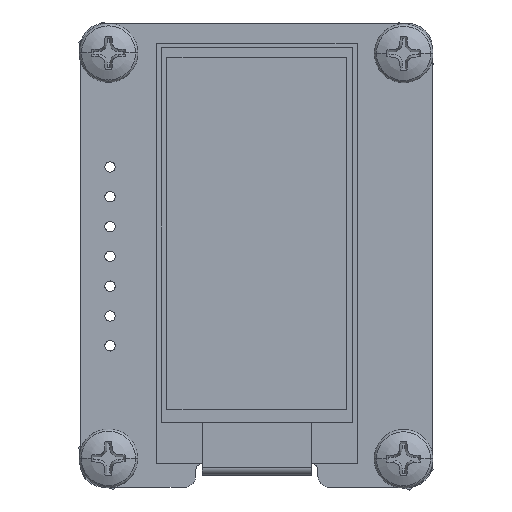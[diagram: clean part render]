
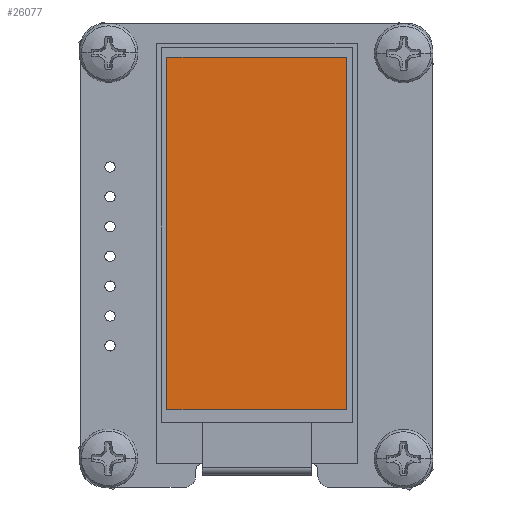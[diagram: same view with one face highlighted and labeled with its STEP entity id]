
A CAD part, top view. The second image highlights one B-rep face of the part: STEP entity #26077.
In plain terms, the highlighted planar face has unit normal (0, 0, 1).
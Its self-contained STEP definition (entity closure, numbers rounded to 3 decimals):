
#25042=DIRECTION('',(1.,0.,0.));
#25043=VECTOR('',#25042,30.02);
#25044=CARTESIAN_POINT('',(-15.01,7.65,1.4));
#25045=LINE('',#25044,#25043);
#25049=DIRECTION('',(0.,1.,0.));
#25050=VECTOR('',#25049,15.3);
#25051=CARTESIAN_POINT('',(15.01,-7.65,1.4));
#25052=LINE('',#25051,#25050);
#25056=DIRECTION('',(1.,0.,0.));
#25057=VECTOR('',#25056,30.02);
#25058=CARTESIAN_POINT('',(-15.01,-7.65,1.4));
#25059=LINE('',#25058,#25057);
#25063=DIRECTION('',(0.,1.,0.));
#25064=VECTOR('',#25063,15.3);
#25065=CARTESIAN_POINT('',(-15.01,-7.65,1.4));
#25066=LINE('',#25065,#25064);
#25137=CARTESIAN_POINT('',(-15.01,7.65,1.4));
#25138=CARTESIAN_POINT('',(15.01,7.65,1.4));
#25139=VERTEX_POINT('',#25137);
#25140=VERTEX_POINT('',#25138);
#25141=CARTESIAN_POINT('',(15.01,-7.65,1.4));
#25142=VERTEX_POINT('',#25141);
#25143=CARTESIAN_POINT('',(-15.01,-7.65,1.4));
#25144=VERTEX_POINT('',#25143);
#26063=CARTESIAN_POINT('',(0.,0.,1.4));
#26064=DIRECTION('',(0.,0.,1.));
#26065=DIRECTION('',(1.,0.,0.));
#26066=AXIS2_PLACEMENT_3D('',#26063,#26064,#26065);
#26067=PLANE('',#26066);
#26068=ORIENTED_EDGE('',*,*,#26053,.T.);
#26070=ORIENTED_EDGE('',*,*,#26069,.F.);
#26072=ORIENTED_EDGE('',*,*,#26071,.F.);
#26074=ORIENTED_EDGE('',*,*,#26073,.T.);
#26075=EDGE_LOOP('',(#26068,#26070,#26072,#26074));
#26076=FACE_OUTER_BOUND('',#26075,.F.);
#26077=ADVANCED_FACE('',(#26076),#26067,.T.);
#26053=EDGE_CURVE('',#25139,#25140,#25045,.T.);
#26069=EDGE_CURVE('',#25142,#25140,#25052,.T.);
#26071=EDGE_CURVE('',#25144,#25142,#25059,.T.);
#26073=EDGE_CURVE('',#25144,#25139,#25066,.T.);
